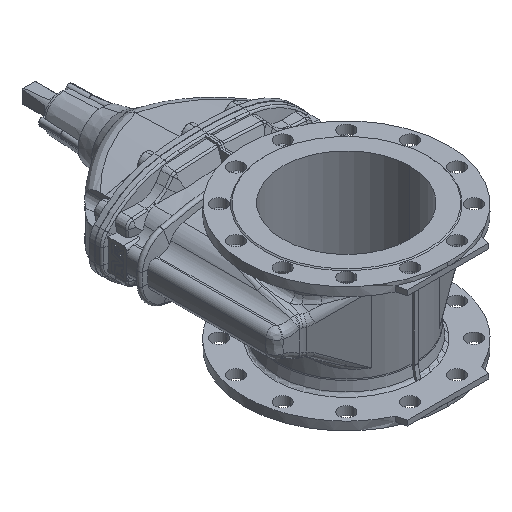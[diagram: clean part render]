
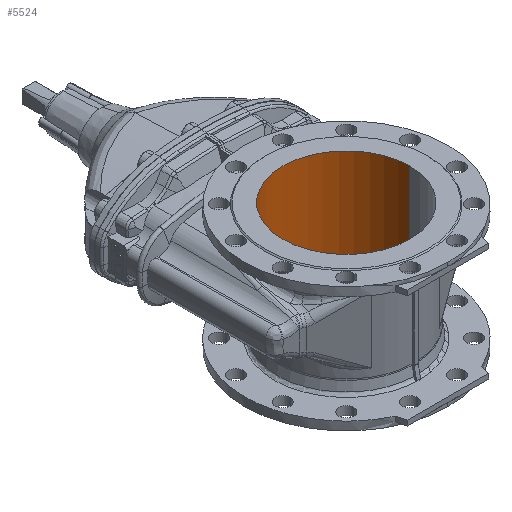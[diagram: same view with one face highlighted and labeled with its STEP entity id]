
A CAD part, isometric view. The second image highlights one B-rep face of the part: STEP entity #5524.
In plain terms, the highlighted cylindrical face has radius 125 mm (diameter 250 mm), a partial arc.
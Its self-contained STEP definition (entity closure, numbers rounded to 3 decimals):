
#507 = DIRECTION ( 'NONE',  ( 0., 0., 1. ) ) ;
#835 = CARTESIAN_POINT ( 'NONE',  ( -125., 0., 125. ) ) ;
#1061 = VERTEX_POINT ( 'NONE', #835 ) ;
#4637 = DIRECTION ( 'NONE',  ( 1., 0., 0. ) ) ;
#5524 = ADVANCED_FACE ( 'NONE', ( #7948 ), #22754, .F. ) ;
#6418 = ORIENTED_EDGE ( 'NONE', *, *, #23278, .T. ) ;
#7158 = LINE ( 'NONE', #15049, #21290 ) ;
#7377 = CARTESIAN_POINT ( 'NONE',  ( 125., 0., 125. ) ) ;
#7948 = FACE_OUTER_BOUND ( 'NONE', #17284, .T. ) ;
#9378 = CIRCLE ( 'NONE', #12397, 125. ) ;
#12085 = ORIENTED_EDGE ( 'NONE', *, *, #22683, .F. ) ;
#12397 = AXIS2_PLACEMENT_3D ( 'NONE', #14695, #20931, #4637 ) ;
#12907 = VERTEX_POINT ( 'NONE', #14049 ) ;
#13288 = CIRCLE ( 'NONE', #23697, 125. ) ;
#14049 = CARTESIAN_POINT ( 'NONE',  ( 125., 0., -125. ) ) ;
#14228 = ORIENTED_EDGE ( 'NONE', *, *, #23587, .F. ) ;
#14248 = AXIS2_PLACEMENT_3D ( 'NONE', #18279, #16234, #24531 ) ;
#14695 = CARTESIAN_POINT ( 'NONE',  ( 0., 0., 125. ) ) ;
#14756 = VECTOR ( 'NONE', #23134, 1000. ) ;
#14781 = VERTEX_POINT ( 'NONE', #20848 ) ;
#15049 = CARTESIAN_POINT ( 'NONE',  ( 125., 0., -125. ) ) ;
#15959 = EDGE_CURVE ( 'NONE', #12907, #23998, #7158, .T. ) ;
#16234 = DIRECTION ( 'NONE',  ( 0., 0., 1. ) ) ;
#16604 = CARTESIAN_POINT ( 'NONE',  ( -125., 0., -125. ) ) ;
#17228 = DIRECTION ( 'NONE',  ( 0., 0., 1. ) ) ;
#17284 = EDGE_LOOP ( 'NONE', ( #12085, #14228, #26317, #6418 ) ) ;
#18279 = CARTESIAN_POINT ( 'NONE',  ( 0., 0., -125. ) ) ;
#20848 = CARTESIAN_POINT ( 'NONE',  ( -125., 0., -125. ) ) ;
#20931 = DIRECTION ( 'NONE',  ( 0., 0., 1. ) ) ;
#21003 = CARTESIAN_POINT ( 'NONE',  ( 0., 0., -125. ) ) ;
#21290 = VECTOR ( 'NONE', #17228, 1000. ) ;
#21351 = LINE ( 'NONE', #16604, #14756 ) ;
#22683 = EDGE_CURVE ( 'NONE', #14781, #1061, #21351, .T. ) ;
#22754 = CYLINDRICAL_SURFACE ( 'NONE', #14248, 125. ) ;
#23134 = DIRECTION ( 'NONE',  ( 0., 0., 1. ) ) ;
#23278 = EDGE_CURVE ( 'NONE', #23998, #1061, #9378, .T. ) ;
#23462 = DIRECTION ( 'NONE',  ( 1., 0., 0. ) ) ;
#23587 = EDGE_CURVE ( 'NONE', #12907, #14781, #13288, .T. ) ;
#23697 = AXIS2_PLACEMENT_3D ( 'NONE', #21003, #507, #23462 ) ;
#23998 = VERTEX_POINT ( 'NONE', #7377 ) ;
#24531 = DIRECTION ( 'NONE',  ( 1., 0., 0. ) ) ;
#26317 = ORIENTED_EDGE ( 'NONE', *, *, #15959, .T. ) ;
